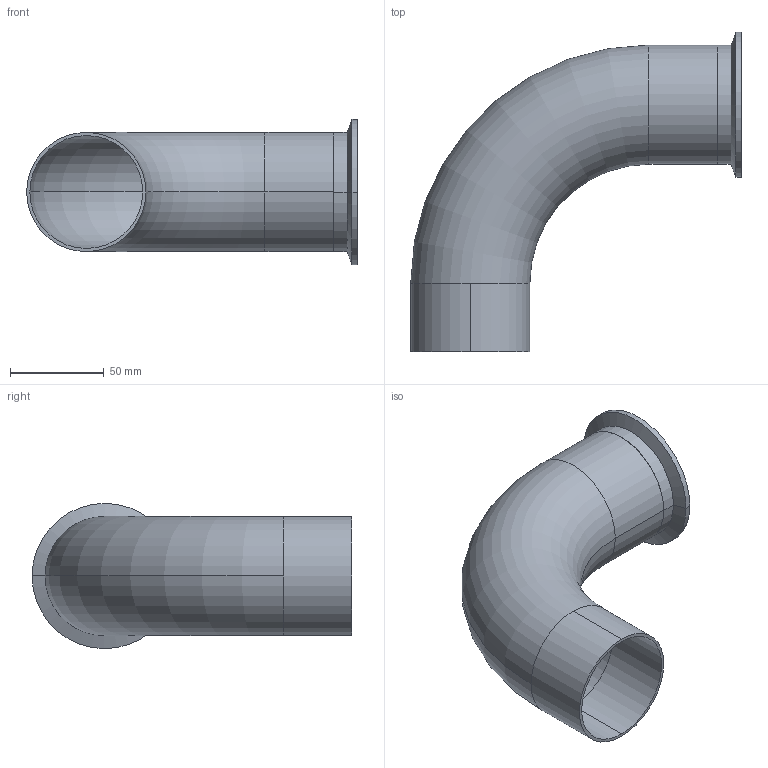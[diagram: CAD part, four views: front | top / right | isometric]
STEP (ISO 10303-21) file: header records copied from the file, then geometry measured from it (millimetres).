
FILE_DESCRIPTION (( 'STEP AP203' ), '1' );
FILE_NAME ('E2C2.5.STEP', '2018-04-30T15:37:27', ( 'vneprd' ), ( 'Microsoft' ), 'SwSTEP 2.0', 'SolidWorks 2014', '' );
FILE_SCHEMA (( 'CONFIG_CONTROL_DESIGN' ));
Length unit declared in the file: inch
Products named in the file (1): E2C2.5
Bounding box: 176.2 x 170.46 x 77.42 mm (x, y, z)
Volume: 81233.3 mm3; surface area: 95743.8 mm2
Topology: 2 solids, 2 shells, 31 faces, 66 edges, 40 vertices
Faces by surface type: cylinder 14, torus 10, plane 5, cone 2
Entity records: 939 total; most frequent: DIRECTION 180, CARTESIAN_POINT 138, ORIENTED_EDGE 132, AXIS2_PLACEMENT_3D 82, EDGE_CURVE 66, CIRCLE 50, VERTEX_POINT 40, EDGE_LOOP 36
